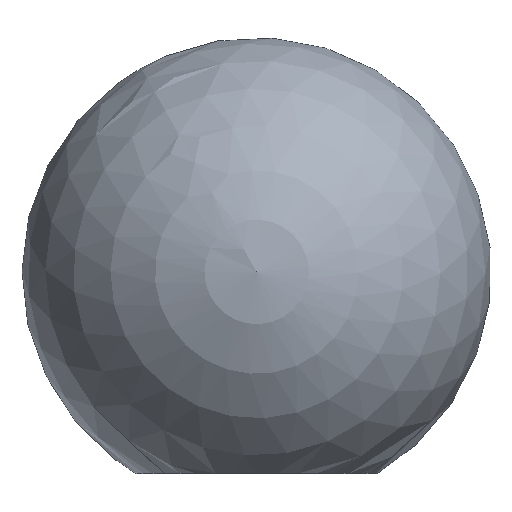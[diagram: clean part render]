
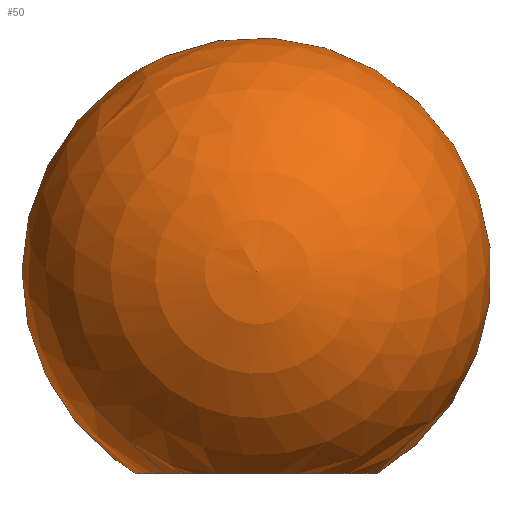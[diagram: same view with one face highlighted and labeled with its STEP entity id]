
A CAD part, top view. The second image highlights one B-rep face of the part: STEP entity #50.
In plain terms, the highlighted spherical face has radius 17.5 mm.
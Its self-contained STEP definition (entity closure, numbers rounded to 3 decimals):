
#2 = DIRECTION ( 'NONE',  ( 0., 0., -1. ) ) ;
#27 = VERTEX_POINT ( 'NONE', #73 ) ;
#39 = EDGE_LOOP ( 'NONE', ( #85 ) ) ;
#43 = DIRECTION ( 'NONE',  ( 0., 0., 1. ) ) ;
#50 = ADVANCED_FACE ( 'NONE', ( #136 ), #148, .T. ) ;
#52 = DIRECTION ( 'NONE',  ( 0., -1., 0. ) ) ;
#73 = CARTESIAN_POINT ( 'NONE',  ( 0., 0., -9.014 ) ) ;
#85 = ORIENTED_EDGE ( 'NONE', *, *, #109, .F. ) ;
#94 = CARTESIAN_POINT ( 'NONE',  ( 0., 15., 0. ) ) ;
#100 = AXIS2_PLACEMENT_3D ( 'NONE', #107, #52, #2 ) ;
#107 = CARTESIAN_POINT ( 'NONE',  ( 0., 0., 0. ) ) ;
#109 = EDGE_CURVE ( 'NONE', #27, #27, #153, .T. ) ;
#136 = FACE_OUTER_BOUND ( 'NONE', #39, .T. ) ;
#148 = SPHERICAL_SURFACE ( 'NONE', #171, 17.5 ) ;
#153 = CIRCLE ( 'NONE', #100, 9.014 ) ;
#162 = DIRECTION ( 'NONE',  ( 1., 0., 0. ) ) ;
#171 = AXIS2_PLACEMENT_3D ( 'NONE', #94, #43, #162 ) ;
